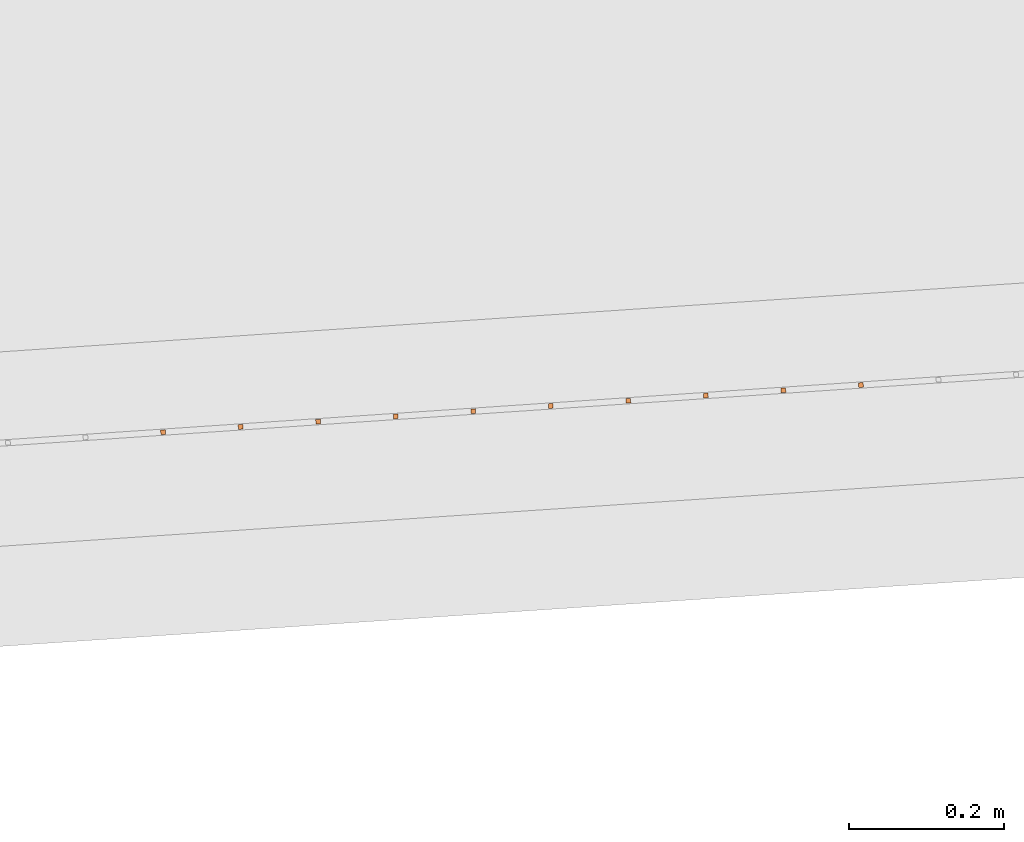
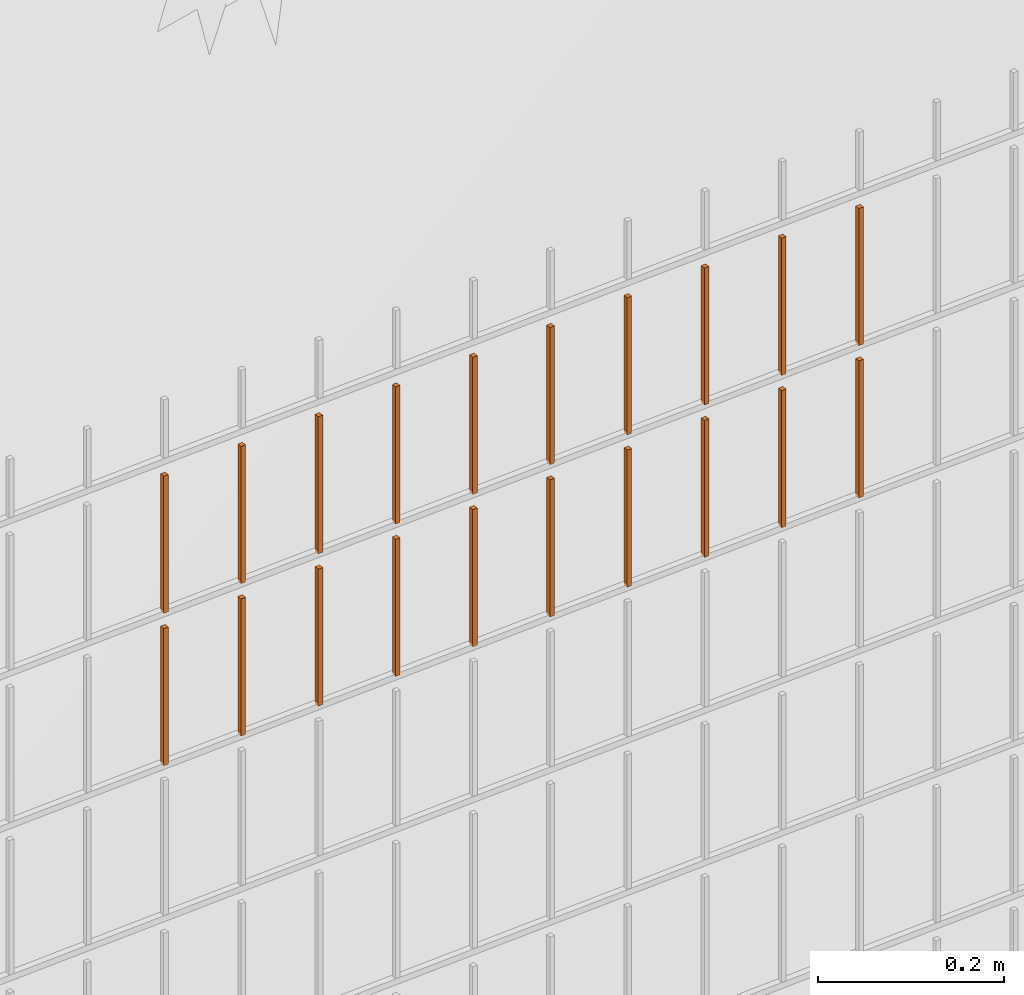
# One storey, part 73 of 1809: 20 proxies, 1 element without a shape of its own.
"""IFC2X3 building model written with IfcOpenShell, lengths in millimetres."""

from ifc_helpers import new_model, entity, si_unit, converted_unit, derived_unit, money_unit, direction, frame, origin_with_axes, place, context, subcontext, project, spatial, faceted_brep, source, transform, mapped, material, type_object, element, aggregate, save


model = new_model("IFC2X3")

# Units and contexts
model_context = context("Model", 3, precision=0.01, world=origin_with_axes(), true_north=direction((0.0, 1.0)))
body_context = subcontext(model_context, "Body", "Model", "MODEL_VIEW")
ifc_project = project(units=[si_unit("LENGTHUNIT", "METRE", prefix="MILLI"), si_unit("AREAUNIT", "SQUARE_METRE"), si_unit("VOLUMEUNIT", "CUBIC_METRE"), converted_unit("PLANEANGLEUNIT", "DEGREE", entity("IfcPlaneAngleMeasure", 0.0174532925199), si_unit("PLANEANGLEUNIT", "RADIAN"), dimensions=[0, 0, 0, 0, 0, 0, 0]), si_unit("SOLIDANGLEUNIT", "STERADIAN"), money_unit("EUR"), converted_unit("TIMEUNIT", "Year", entity("IfcTimeMeasure", 31556926.0), si_unit("TIMEUNIT", "SECOND"), dimensions=[0, 0, 1, 0, 0, 0, 0]), si_unit("MASSUNIT", "GRAM", prefix="KILO"), si_unit("THERMODYNAMICTEMPERATUREUNIT", "DEGREE_CELSIUS"), si_unit("LUMINOUSINTENSITYUNIT", "LUMEN"), si_unit("ENERGYUNIT", "JOULE", prefix="MEGA"), derived_unit("THERMALCONDUCTANCEUNIT", [(si_unit("POWERUNIT", "WATT"), 1), (si_unit("LENGTHUNIT", "METRE"), -1), (si_unit("THERMODYNAMICTEMPERATUREUNIT", "KELVIN"), -1)]), derived_unit("SPECIFICHEATCAPACITYUNIT", [(si_unit("ENERGYUNIT", "JOULE"), 1), (si_unit("MASSUNIT", "GRAM", prefix="KILO"), -1), (si_unit("THERMODYNAMICTEMPERATUREUNIT", "KELVIN"), -1)]), derived_unit("MASSDENSITYUNIT", [(si_unit("MASSUNIT", "GRAM", prefix="KILO"), 1), (si_unit("VOLUMEUNIT", "CUBIC_METRE"), -1)])], contexts=[model_context])

# Site, building, storey
site_placement = place(None, origin_with_axes())
site = spatial("IfcSite", under=ifc_project, at=site_placement, Name="Politse- ja Piirivalveameti ning Päästeameti ühishoone", CompositionType="ELEMENT")
building_placement = place(site_placement, origin_with_axes())
building = spatial("IfcBuilding", under=site, at=building_placement, Name="Politse- ja Piirivalveameti ning Päästeameti ühishoone", CompositionType="ELEMENT")
storey_placement = place(building_placement, origin_with_axes())
storey = spatial("IfcBuildingStorey", under=building, at=storey_placement, Name="Esimene korrus", CompositionType="ELEMENT", Elevation=0.0)

# Proxies
building_element_proxy_type_1 = type_object("IfcBuildingElementProxyType", Name="Railing Type", PredefinedType="NOTDEFINED")
proxy_1_placement = place(storey_placement, frame((89252.001212, -29183.4766571, 203.661247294), z_axis=(0.0, 0.0, 1.0), x_axis=(1.0, 0.0, 0.0)))
proxy_1 = element("IfcBuildingElementProxy", 1, at=proxy_1_placement, inside=storey, type_object=building_element_proxy_type_1, Name="PIIRDEAED")
ifc_material = material(Name="ET-03_Raud")
building_element_proxy_type_2 = type_object("IfcBuildingElementProxyType", Name="IfcBuildingElementProxy", PredefinedType="NOTDEFINED")
shared_shape_1 = source(origin_with_axes(), body_context, "Body", "Brep", [
    faceted_brep([(3.0, 3.0, -0.000752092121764), (-3.0, 3.0, -0.000752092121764), (-3.0, 3.0, 179.99926046), (3.0, 3.0, 179.99926046), (3.0, -3.0, 0.000752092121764), (-3.0, -3.0, 0.000752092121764), (-3.0, -3.0, 180.000764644), (3.0, -3.0, 180.000764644)], [[[0, 1, 2, 3]], [[0, 4, 5, 1]], [[1, 5, 6, 2]], [[3, 2, 6, 7]], [[4, 0, 3, 7]], [[5, 4, 7, 6]]]),
])
proxy_2_placement = place(proxy_1_placement, frame((-105187.003582, -24402.7598921, 1800.8041917), z_axis=(0.0, 0.0, 1.0), x_axis=(1.0, 0.0, 0.0)))
proxy_2 = element("IfcBuildingElementProxy", 2, at=proxy_2_placement, type_object=building_element_proxy_type_2, material=ifc_material, Name="BALUSTER - 001", context=body_context, shape_type="MappedRepresentation", body=[
    mapped(shared_shape_1, transform((0.0, 0.0, 0.0), x_axis=(-0.0673926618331, 0.997726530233, 0.0), y_axis=(-0.997726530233, -0.0673926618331, 0.0), z_axis=(0.0, 0.0, 1.0))),
])
shared_shape_2 = source(origin_with_axes(), body_context, "Body", "Brep", [
    faceted_brep([(3.0, 3.0, -0.000752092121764), (-3.0, 3.0, -0.000752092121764), (-3.0, 3.0, 179.99926046), (3.0, 3.0, 179.99926046), (3.0, -3.0, 0.000752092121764), (-3.0, -3.0, 0.000752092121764), (-3.0, -3.0, 180.000764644), (3.0, -3.0, 180.000764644)], [[[0, 1, 2, 3]], [[0, 4, 5, 1]], [[1, 5, 6, 2]], [[3, 2, 6, 7]], [[4, 0, 3, 7]], [[5, 4, 7, 6]]]),
])
proxy_3_placement = place(proxy_1_placement, frame((-105885.412153, -24449.9347554, 1600.62870353), z_axis=(0.0, 0.0, 1.0), x_axis=(1.0, 0.0, 0.0)))
proxy_3 = element("IfcBuildingElementProxy", 3, at=proxy_3_placement, type_object=building_element_proxy_type_2, material=ifc_material, Name="BALUSTER - 001", context=body_context, shape_type="MappedRepresentation", body=[
    mapped(shared_shape_2, transform((0.0, 0.0, 0.0), x_axis=(-0.0673926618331, 0.997726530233, 0.0), y_axis=(-0.997726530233, -0.0673926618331, 0.0), z_axis=(0.0, 0.0, 1.0))),
])
shared_shape_3 = source(origin_with_axes(), body_context, "Body", "Brep", [
    faceted_brep([(3.0, 3.0, -0.000752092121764), (-3.0, 3.0, -0.000752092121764), (-3.0, 3.0, 179.99926046), (3.0, 3.0, 179.99926046), (3.0, -3.0, 0.000752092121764), (-3.0, -3.0, 0.000752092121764), (-3.0, -3.0, 180.000764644), (3.0, -3.0, 180.000764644)], [[[0, 1, 2, 3]], [[0, 4, 5, 1]], [[1, 5, 6, 2]], [[3, 2, 6, 7]], [[4, 0, 3, 7]], [[5, 4, 7, 6]]]),
])
proxy_4_placement = place(proxy_1_placement, frame((-105885.412153, -24449.9347554, 1800.62870353), z_axis=(0.0, 0.0, 1.0), x_axis=(1.0, 0.0, 0.0)))
proxy_4 = element("IfcBuildingElementProxy", 4, at=proxy_4_placement, type_object=building_element_proxy_type_2, material=ifc_material, Name="BALUSTER - 001", context=body_context, shape_type="MappedRepresentation", body=[
    mapped(shared_shape_3, transform((0.0, 0.0, 0.0), x_axis=(-0.0673926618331, 0.997726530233, 0.0), y_axis=(-0.997726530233, -0.0673926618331, 0.0), z_axis=(0.0, 0.0, 1.0))),
])
shared_shape_4 = source(origin_with_axes(), body_context, "Body", "Brep", [
    faceted_brep([(3.0, 3.0, -0.000752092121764), (-3.0, 3.0, -0.000752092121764), (-3.0, 3.0, 179.99926046), (3.0, 3.0, 179.99926046), (3.0, -3.0, 0.000752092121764), (-3.0, -3.0, 0.000752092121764), (-3.0, -3.0, 180.000764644), (3.0, -3.0, 180.000764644)], [[[0, 1, 2, 3]], [[0, 4, 5, 1]], [[1, 5, 6, 2]], [[3, 2, 6, 7]], [[4, 0, 3, 7]], [[5, 4, 7, 6]]]),
])
proxy_5_placement = place(proxy_1_placement, frame((-105187.003582, -24402.7598921, 1600.8041917), z_axis=(0.0, 0.0, 1.0), x_axis=(1.0, 0.0, 0.0)))
proxy_5 = element("IfcBuildingElementProxy", 5, at=proxy_5_placement, type_object=building_element_proxy_type_2, material=ifc_material, Name="BALUSTER - 001", context=body_context, shape_type="MappedRepresentation", body=[
    mapped(shared_shape_4, transform((0.0, 0.0, 0.0), x_axis=(-0.0673926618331, 0.997726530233, 0.0), y_axis=(-0.997726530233, -0.0673926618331, 0.0), z_axis=(0.0, 0.0, 1.0))),
])
shared_shape_5 = source(origin_with_axes(), body_context, "Body", "Brep", [
    faceted_brep([(3.0, 3.0, -0.000752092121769), (-3.0, 3.0, -0.000752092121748), (-3.0, 3.0, 179.99926046), (3.0, 3.0, 179.99926046), (3.0, -3.0, 0.000752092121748), (-3.0, -3.0, 0.000752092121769), (-3.0, -3.0, 180.000764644), (3.0, -3.0, 180.000764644)], [[[0, 1, 2, 3]], [[0, 4, 5, 1]], [[1, 5, 6, 2]], [[3, 2, 6, 7]], [[4, 0, 3, 7]], [[5, 4, 7, 6]]]),
])
proxy_6_placement = place(proxy_1_placement, frame((-105785.6395, -24443.1954892, 1800.65377327), z_axis=(0.0, 0.0, 1.0), x_axis=(1.0, 0.0, 0.0)))
proxy_6 = element("IfcBuildingElementProxy", 6, at=proxy_6_placement, type_object=building_element_proxy_type_2, material=ifc_material, Name="BALUSTER - 001", context=body_context, shape_type="MappedRepresentation", body=[
    mapped(shared_shape_5, transform((0.0, 0.0, 0.0), x_axis=(-0.0673926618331, 0.997726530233, 0.0), y_axis=(-0.997726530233, -0.0673926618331, 0.0), z_axis=(0.0, 0.0, 1.0))),
])
shared_shape_6 = source(origin_with_axes(), body_context, "Body", "Brep", [
    faceted_brep([(3.0, 3.0, -0.000752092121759), (-3.0, 3.0, -0.000752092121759), (-3.0, 3.0, 179.99926046), (3.0, 3.0, 179.99926046), (3.0, -3.0, 0.000752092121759), (-3.0, -3.0, 0.000752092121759), (-3.0, -3.0, 180.000764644), (3.0, -3.0, 180.000764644)], [[[0, 1, 2, 3]], [[0, 4, 5, 1]], [[1, 5, 6, 2]], [[3, 2, 6, 7]], [[4, 0, 3, 7]], [[5, 4, 7, 6]]]),
])
proxy_7_placement = place(proxy_1_placement, frame((-105985.184806, -24456.6740216, 1800.6036338), z_axis=(0.0, 0.0, 1.0), x_axis=(1.0, 0.0, 0.0)))
proxy_7 = element("IfcBuildingElementProxy", 7, at=proxy_7_placement, type_object=building_element_proxy_type_2, material=ifc_material, Name="BALUSTER - 001", context=body_context, shape_type="MappedRepresentation", body=[
    mapped(shared_shape_6, transform((0.0, 0.0, 0.0), x_axis=(-0.0673926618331, 0.997726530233, 0.0), y_axis=(-0.997726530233, -0.0673926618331, 0.0), z_axis=(0.0, 0.0, 1.0))),
])
shared_shape_7 = source(origin_with_axes(), body_context, "Body", "Brep", [
    faceted_brep([(3.0, 3.0, -0.000752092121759), (-3.0, 3.0, -0.000752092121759), (-3.0, 3.0, 179.99926046), (3.0, 3.0, 179.99926046), (3.0, -3.0, 0.000752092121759), (-3.0, -3.0, 0.000752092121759), (-3.0, -3.0, 180.000764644), (3.0, -3.0, 180.000764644)], [[[0, 1, 2, 3]], [[0, 4, 5, 1]], [[1, 5, 6, 2]], [[3, 2, 6, 7]], [[4, 0, 3, 7]], [[5, 4, 7, 6]]]),
])
proxy_8_placement = place(proxy_1_placement, frame((-105586.094194, -24429.7169569, 1800.70391275), z_axis=(0.0, 0.0, 1.0), x_axis=(1.0, 0.0, 0.0)))
proxy_8 = element("IfcBuildingElementProxy", 8, at=proxy_8_placement, type_object=building_element_proxy_type_2, material=ifc_material, Name="BALUSTER - 001", context=body_context, shape_type="MappedRepresentation", body=[
    mapped(shared_shape_7, transform((0.0, 0.0, 0.0), x_axis=(-0.0673926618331, 0.997726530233, 0.0), y_axis=(-0.997726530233, -0.0673926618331, 0.0), z_axis=(0.0, 0.0, 1.0))),
])
shared_shape_8 = source(origin_with_axes(), body_context, "Body", "Brep", [
    faceted_brep([(3.0, 3.0, -0.000752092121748), (-3.0, 3.0, -0.00075209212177), (-3.0, 3.0, 179.99926046), (3.0, 3.0, 179.99926046), (3.0, -3.0, 0.00075209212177), (-3.0, -3.0, 0.000752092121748), (-3.0, -3.0, 180.000764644), (3.0, -3.0, 180.000764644)], [[[0, 1, 2, 3]], [[0, 4, 5, 1]], [[1, 5, 6, 2]], [[3, 2, 6, 7]], [[4, 0, 3, 7]], [[5, 4, 7, 6]]]),
])
proxy_9_placement = place(proxy_1_placement, frame((-106084.957459, -24463.4132878, 1800.57856406), z_axis=(0.0, 0.0, 1.0), x_axis=(1.0, 0.0, 0.0)))
proxy_9 = element("IfcBuildingElementProxy", 9, at=proxy_9_placement, type_object=building_element_proxy_type_2, material=ifc_material, Name="BALUSTER - 001", context=body_context, shape_type="MappedRepresentation", body=[
    mapped(shared_shape_8, transform((0.0, 0.0, 0.0), x_axis=(-0.0673926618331, 0.997726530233, 0.0), y_axis=(-0.997726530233, -0.0673926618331, 0.0), z_axis=(0.0, 0.0, 1.0))),
])
shared_shape_9 = source(origin_with_axes(), body_context, "Body", "Brep", [
    faceted_brep([(3.0, 3.0, -0.000752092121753), (-3.0, 3.0, -0.000752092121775), (-3.0, 3.0, 179.99926046), (3.0, 3.0, 179.99926046), (3.0, -3.0, 0.000752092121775), (-3.0, -3.0, 0.000752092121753), (-3.0, -3.0, 180.000764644), (3.0, -3.0, 180.000764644)], [[[0, 1, 2, 3]], [[0, 4, 5, 1]], [[1, 5, 6, 2]], [[3, 2, 6, 7]], [[4, 0, 3, 7]], [[5, 4, 7, 6]]]),
])
proxy_10_placement = place(proxy_1_placement, frame((-105685.866847, -24436.456223, 1800.67884301), z_axis=(0.0, 0.0, 1.0), x_axis=(1.0, 0.0, 0.0)))
proxy_10 = element("IfcBuildingElementProxy", 10, at=proxy_10_placement, type_object=building_element_proxy_type_2, material=ifc_material, Name="BALUSTER - 001", context=body_context, shape_type="MappedRepresentation", body=[
    mapped(shared_shape_9, transform((0.0, 0.0, 0.0), x_axis=(-0.0673926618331, 0.997726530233, 0.0), y_axis=(-0.997726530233, -0.0673926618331, 0.0), z_axis=(0.0, 0.0, 1.0))),
])
shared_shape_10 = source(origin_with_axes(), body_context, "Body", "Brep", [
    faceted_brep([(3.0, 3.0, -0.000752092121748), (-3.0, 3.0, -0.00075209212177), (-3.0, 3.0, 179.99926046), (3.0, 3.0, 179.99926046), (3.0, -3.0, 0.00075209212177), (-3.0, -3.0, 0.000752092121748), (-3.0, -3.0, 180.000764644), (3.0, -3.0, 180.000764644)], [[[0, 1, 2, 3]], [[0, 4, 5, 1]], [[1, 5, 6, 2]], [[3, 2, 6, 7]], [[4, 0, 3, 7]], [[5, 4, 7, 6]]]),
])
proxy_11_placement = place(proxy_1_placement, frame((-106084.957459, -24463.4132878, 1600.57856406), z_axis=(0.0, 0.0, 1.0), x_axis=(1.0, 0.0, 0.0)))
proxy_11 = element("IfcBuildingElementProxy", 11, at=proxy_11_placement, type_object=building_element_proxy_type_2, material=ifc_material, Name="BALUSTER - 001", context=body_context, shape_type="MappedRepresentation", body=[
    mapped(shared_shape_10, transform((0.0, 0.0, 0.0), x_axis=(-0.0673926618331, 0.997726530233, 0.0), y_axis=(-0.997726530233, -0.0673926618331, 0.0), z_axis=(0.0, 0.0, 1.0))),
])
shared_shape_11 = source(origin_with_axes(), body_context, "Body", "Brep", [
    faceted_brep([(3.0, 3.0, -0.000752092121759), (-3.0, 3.0, -0.000752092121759), (-3.0, 3.0, 179.99926046), (3.0, 3.0, 179.99926046), (3.0, -3.0, 0.000752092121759), (-3.0, -3.0, 0.000752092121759), (-3.0, -3.0, 180.000764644), (3.0, -3.0, 180.000764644)], [[[0, 1, 2, 3]], [[0, 4, 5, 1]], [[1, 5, 6, 2]], [[3, 2, 6, 7]], [[4, 0, 3, 7]], [[5, 4, 7, 6]]]),
])
proxy_12_placement = place(proxy_1_placement, frame((-105386.548888, -24416.2384245, 1600.75405222), z_axis=(0.0, 0.0, 1.0), x_axis=(1.0, 0.0, 0.0)))
proxy_12 = element("IfcBuildingElementProxy", 12, at=proxy_12_placement, type_object=building_element_proxy_type_2, material=ifc_material, Name="BALUSTER - 001", context=body_context, shape_type="MappedRepresentation", body=[
    mapped(shared_shape_11, transform((0.0, 0.0, 0.0), x_axis=(-0.0673926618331, 0.997726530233, 0.0), y_axis=(-0.997726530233, -0.0673926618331, 0.0), z_axis=(0.0, 0.0, 1.0))),
])
proxy_13_placement = place(proxy_1_placement, frame((-105985.184806, -24456.6740216, 1600.6036338), z_axis=(0.0, 0.0, 1.0), x_axis=(1.0, 0.0, 0.0)))
proxy_13 = element("IfcBuildingElementProxy", 13, at=proxy_13_placement, type_object=building_element_proxy_type_2, material=ifc_material, Name="BALUSTER - 001", context=body_context, shape_type="MappedRepresentation", body=[
    mapped(shared_shape_11, transform((0.0, 0.0, 0.0), x_axis=(-0.0673926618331, 0.997726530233, 0.0), y_axis=(-0.997726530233, -0.0673926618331, 0.0), z_axis=(0.0, 0.0, 1.0))),
])
shared_shape_12 = source(origin_with_axes(), body_context, "Body", "Brep", [
    faceted_brep([(3.0, 3.0, -0.000752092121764), (-3.0, 3.0, -0.000752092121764), (-3.0, 3.0, 179.99926046), (3.0, 3.0, 179.99926046), (3.0, -3.0, 0.000752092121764), (-3.0, -3.0, 0.000752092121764), (-3.0, -3.0, 180.000764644), (3.0, -3.0, 180.000764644)], [[[0, 1, 2, 3]], [[0, 4, 5, 1]], [[1, 5, 6, 2]], [[3, 2, 6, 7]], [[4, 0, 3, 7]], [[5, 4, 7, 6]]]),
])
proxy_14_placement = place(proxy_1_placement, frame((-105286.776235, -24409.4991583, 1800.77912196), z_axis=(0.0, 0.0, 1.0), x_axis=(1.0, 0.0, 0.0)))
proxy_14 = element("IfcBuildingElementProxy", 14, at=proxy_14_placement, type_object=building_element_proxy_type_2, material=ifc_material, Name="BALUSTER - 001", context=body_context, shape_type="MappedRepresentation", body=[
    mapped(shared_shape_12, transform((0.0, 0.0, 0.0), x_axis=(-0.0673926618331, 0.997726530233, 0.0), y_axis=(-0.997726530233, -0.0673926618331, 0.0), z_axis=(0.0, 0.0, 1.0))),
])
shared_shape_13 = source(origin_with_axes(), body_context, "Body", "Brep", [
    faceted_brep([(3.0, 3.0, -0.000752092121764), (-3.0, 3.0, -0.000752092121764), (-3.0, 3.0, 179.99926046), (3.0, 3.0, 179.99926046), (3.0, -3.0, 0.000752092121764), (-3.0, -3.0, 0.000752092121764), (-3.0, -3.0, 180.000764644), (3.0, -3.0, 180.000764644)], [[[0, 1, 2, 3]], [[0, 4, 5, 1]], [[1, 5, 6, 2]], [[3, 2, 6, 7]], [[4, 0, 3, 7]], [[5, 4, 7, 6]]]),
])
proxy_15_placement = place(proxy_1_placement, frame((-105286.776235, -24409.4991583, 1600.77912196), z_axis=(0.0, 0.0, 1.0), x_axis=(1.0, 0.0, 0.0)))
proxy_15 = element("IfcBuildingElementProxy", 15, at=proxy_15_placement, type_object=building_element_proxy_type_2, material=ifc_material, Name="BALUSTER - 001", context=body_context, shape_type="MappedRepresentation", body=[
    mapped(shared_shape_13, transform((0.0, 0.0, 0.0), x_axis=(-0.0673926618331, 0.997726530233, 0.0), y_axis=(-0.997726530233, -0.0673926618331, 0.0), z_axis=(0.0, 0.0, 1.0))),
])
shared_shape_14 = source(origin_with_axes(), body_context, "Body", "Brep", [
    faceted_brep([(3.0, 3.0, -0.000752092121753), (-3.0, 3.0, -0.000752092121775), (-3.0, 3.0, 179.99926046), (3.0, 3.0, 179.99926046), (3.0, -3.0, 0.000752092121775), (-3.0, -3.0, 0.000752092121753), (-3.0, -3.0, 180.000764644), (3.0, -3.0, 180.000764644)], [[[0, 1, 2, 3]], [[0, 4, 5, 1]], [[1, 5, 6, 2]], [[3, 2, 6, 7]], [[4, 0, 3, 7]], [[5, 4, 7, 6]]]),
])
proxy_16_placement = place(proxy_1_placement, frame((-105685.866847, -24436.456223, 1600.67884301), z_axis=(0.0, 0.0, 1.0), x_axis=(1.0, 0.0, 0.0)))
proxy_16 = element("IfcBuildingElementProxy", 16, at=proxy_16_placement, type_object=building_element_proxy_type_2, material=ifc_material, Name="BALUSTER - 001", context=body_context, shape_type="MappedRepresentation", body=[
    mapped(shared_shape_14, transform((0.0, 0.0, 0.0), x_axis=(-0.0673926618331, 0.997726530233, 0.0), y_axis=(-0.997726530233, -0.0673926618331, 0.0), z_axis=(0.0, 0.0, 1.0))),
])
shared_shape_15 = source(origin_with_axes(), body_context, "Body", "Brep", [
    faceted_brep([(3.0, 3.0, -0.000752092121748), (-3.0, 3.0, -0.00075209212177), (-3.0, 3.0, 179.99926046), (3.0, 3.0, 179.99926046), (3.0, -3.0, 0.00075209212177), (-3.0, -3.0, 0.000752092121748), (-3.0, -3.0, 180.000764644), (3.0, -3.0, 180.000764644)], [[[0, 1, 2, 3]], [[0, 4, 5, 1]], [[1, 5, 6, 2]], [[3, 2, 6, 7]], [[4, 0, 3, 7]], [[5, 4, 7, 6]]]),
])
proxy_17_placement = place(proxy_1_placement, frame((-105486.321541, -24422.9776907, 1800.72898248), z_axis=(0.0, 0.0, 1.0), x_axis=(1.0, 0.0, 0.0)))
proxy_17 = element("IfcBuildingElementProxy", 17, at=proxy_17_placement, type_object=building_element_proxy_type_2, material=ifc_material, Name="BALUSTER - 001", context=body_context, shape_type="MappedRepresentation", body=[
    mapped(shared_shape_15, transform((0.0, 0.0, 0.0), x_axis=(-0.0673926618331, 0.997726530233, 0.0), y_axis=(-0.997726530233, -0.0673926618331, 0.0), z_axis=(0.0, 0.0, 1.0))),
])
shared_shape_16 = source(origin_with_axes(), body_context, "Body", "Brep", [
    faceted_brep([(3.0, 3.0, -0.000752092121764), (-3.0, 3.0, -0.000752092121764), (-3.0, 3.0, 179.99926046), (3.0, 3.0, 179.99926046), (3.0, -3.0, 0.000752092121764), (-3.0, -3.0, 0.000752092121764), (-3.0, -3.0, 180.000764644), (3.0, -3.0, 180.000764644)], [[[0, 1, 2, 3]], [[0, 4, 5, 1]], [[1, 5, 6, 2]], [[3, 2, 6, 7]], [[4, 0, 3, 7]], [[5, 4, 7, 6]]]),
])
proxy_18_placement = place(proxy_1_placement, frame((-105386.548888, -24416.2384245, 1800.75405222), z_axis=(0.0, 0.0, 1.0), x_axis=(1.0, 0.0, 0.0)))
proxy_18 = element("IfcBuildingElementProxy", 18, at=proxy_18_placement, type_object=building_element_proxy_type_2, material=ifc_material, Name="BALUSTER - 001", context=body_context, shape_type="MappedRepresentation", body=[
    mapped(shared_shape_16, transform((0.0, 0.0, 0.0), x_axis=(-0.0673926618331, 0.997726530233, 0.0), y_axis=(-0.997726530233, -0.0673926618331, 0.0), z_axis=(0.0, 0.0, 1.0))),
])
shared_shape_17 = source(origin_with_axes(), body_context, "Body", "Brep", [
    faceted_brep([(3.0, 3.0, -0.000752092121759), (-3.0, 3.0, -0.000752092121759), (-3.0, 3.0, 179.99926046), (3.0, 3.0, 179.99926046), (3.0, -3.0, 0.000752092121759), (-3.0, -3.0, 0.000752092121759), (-3.0, -3.0, 180.000764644), (3.0, -3.0, 180.000764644)], [[[0, 1, 2, 3]], [[0, 4, 5, 1]], [[1, 5, 6, 2]], [[3, 2, 6, 7]], [[4, 0, 3, 7]], [[5, 4, 7, 6]]]),
])
proxy_19_placement = place(proxy_1_placement, frame((-105586.094194, -24429.7169569, 1600.70391275), z_axis=(0.0, 0.0, 1.0), x_axis=(1.0, 0.0, 0.0)))
proxy_19 = element("IfcBuildingElementProxy", 19, at=proxy_19_placement, type_object=building_element_proxy_type_2, material=ifc_material, Name="BALUSTER - 001", context=body_context, shape_type="MappedRepresentation", body=[
    mapped(shared_shape_17, transform((0.0, 0.0, 0.0), x_axis=(-0.0673926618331, 0.997726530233, 0.0), y_axis=(-0.997726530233, -0.0673926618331, 0.0), z_axis=(0.0, 0.0, 1.0))),
])
shared_shape_18 = source(origin_with_axes(), body_context, "Body", "Brep", [
    faceted_brep([(3.0, 3.0, -0.000752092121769), (-3.0, 3.0, -0.000752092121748), (-3.0, 3.0, 179.99926046), (3.0, 3.0, 179.99926046), (3.0, -3.0, 0.000752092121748), (-3.0, -3.0, 0.000752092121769), (-3.0, -3.0, 180.000764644), (3.0, -3.0, 180.000764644)], [[[0, 1, 2, 3]], [[0, 4, 5, 1]], [[1, 5, 6, 2]], [[3, 2, 6, 7]], [[4, 0, 3, 7]], [[5, 4, 7, 6]]]),
])
proxy_20_placement = place(proxy_1_placement, frame((-105785.6395, -24443.1954892, 1600.65377327), z_axis=(0.0, 0.0, 1.0), x_axis=(1.0, 0.0, 0.0)))
proxy_20 = element("IfcBuildingElementProxy", 20, at=proxy_20_placement, type_object=building_element_proxy_type_2, material=ifc_material, Name="BALUSTER - 001", context=body_context, shape_type="MappedRepresentation", body=[
    mapped(shared_shape_18, transform((0.0, 0.0, 0.0), x_axis=(-0.0673926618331, 0.997726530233, 0.0), y_axis=(-0.997726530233, -0.0673926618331, 0.0), z_axis=(0.0, 0.0, 1.0))),
])
shared_shape_19 = source(origin_with_axes(), body_context, "Body", "Brep", [
    faceted_brep([(3.0, 3.0, -0.000752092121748), (-3.0, 3.0, -0.00075209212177), (-3.0, 3.0, 179.99926046), (3.0, 3.0, 179.99926046), (3.0, -3.0, 0.00075209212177), (-3.0, -3.0, 0.000752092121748), (-3.0, -3.0, 180.000764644), (3.0, -3.0, 180.000764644)], [[[0, 1, 2, 3]], [[0, 4, 5, 1]], [[1, 5, 6, 2]], [[3, 2, 6, 7]], [[4, 0, 3, 7]], [[5, 4, 7, 6]]]),
])
proxy_21_placement = place(proxy_1_placement, frame((-105486.321541, -24422.9776907, 1600.72898248), z_axis=(0.0, 0.0, 1.0), x_axis=(1.0, 0.0, 0.0)))
proxy_21 = element("IfcBuildingElementProxy", 21, at=proxy_21_placement, type_object=building_element_proxy_type_2, material=ifc_material, Name="BALUSTER - 001", context=body_context, shape_type="MappedRepresentation", body=[
    mapped(shared_shape_19, transform((0.0, 0.0, 0.0), x_axis=(-0.0673926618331, 0.997726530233, 0.0), y_axis=(-0.997726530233, -0.0673926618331, 0.0), z_axis=(0.0, 0.0, 1.0))),
])
aggregate(proxy_1, [proxy_5, proxy_15, proxy_12, proxy_21, proxy_19, proxy_16, proxy_20, proxy_3, proxy_13, proxy_11, proxy_2, proxy_14, proxy_18, proxy_17, proxy_8, proxy_10, proxy_6, proxy_4, proxy_7, proxy_9])

save(model, "model.ifc")
